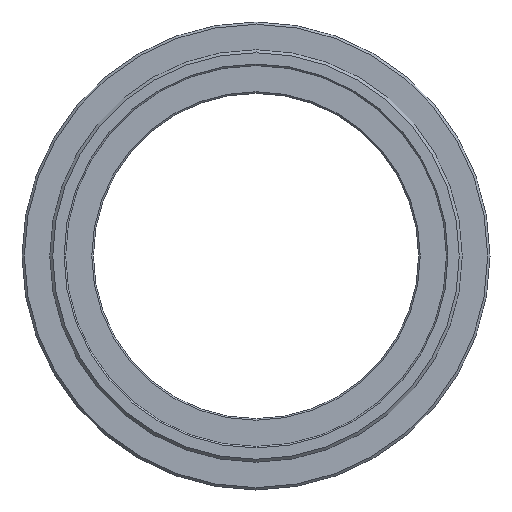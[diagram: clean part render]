
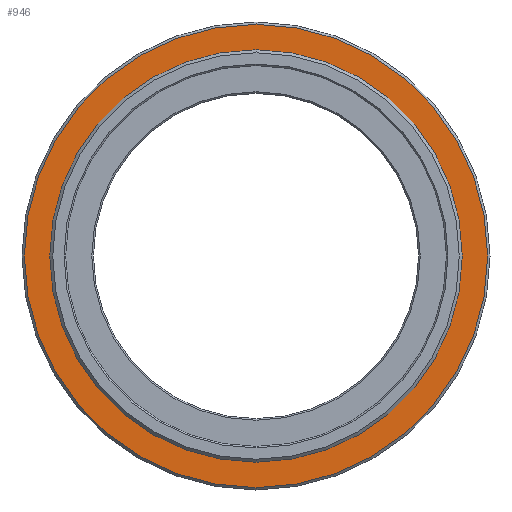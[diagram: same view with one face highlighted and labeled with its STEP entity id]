
A CAD part, left-side view. The second image highlights one B-rep face of the part: STEP entity #946.
In plain terms, the highlighted planar face has unit normal (-1, 0, 0).
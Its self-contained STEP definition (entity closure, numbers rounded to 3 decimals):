
#18 = AXIS2_PLACEMENT_3D ( 'NONE', #230, #1007, #340 ) ;
#23 = VERTEX_POINT ( 'NONE', #1200 ) ;
#64 = FACE_BOUND ( 'NONE', #240, .T. ) ;
#105 = EDGE_CURVE ( 'NONE', #483, #841, #659, .T. ) ;
#211 = CARTESIAN_POINT ( 'NONE',  ( 2.5, 0., 0. ) ) ;
#230 = CARTESIAN_POINT ( 'NONE',  ( 2.5, 0., 0. ) ) ;
#240 = EDGE_LOOP ( 'NONE', ( #1321, #616 ) ) ;
#249 = CIRCLE ( 'NONE', #274, 29.2 ) ;
#274 = AXIS2_PLACEMENT_3D ( 'NONE', #413, #1196, #521 ) ;
#320 = DIRECTION ( 'NONE',  ( 0., 0., 1. ) ) ;
#327 = EDGE_CURVE ( 'NONE', #480, #23, #457, .T. ) ;
#340 = DIRECTION ( 'NONE',  ( 0., 0., 1. ) ) ;
#355 = CARTESIAN_POINT ( 'NONE',  ( 2.5, 0., -29.2 ) ) ;
#359 = EDGE_CURVE ( 'NONE', #23, #480, #716, .T. ) ;
#383 = ORIENTED_EDGE ( 'NONE', *, *, #453, .T. ) ;
#413 = CARTESIAN_POINT ( 'NONE',  ( 2.5, 0., 0. ) ) ;
#416 = CARTESIAN_POINT ( 'NONE',  ( 2.5, 0., 29.2 ) ) ;
#423 = DIRECTION ( 'NONE',  ( 1., 0., 0. ) ) ;
#453 = EDGE_CURVE ( 'NONE', #841, #483, #249, .T. ) ;
#457 = CIRCLE ( 'NONE', #1229, 25.625 ) ;
#480 = VERTEX_POINT ( 'NONE', #981 ) ;
#481 = DIRECTION ( 'NONE',  ( -1., 0., 0. ) ) ;
#483 = VERTEX_POINT ( 'NONE', #416 ) ;
#521 = DIRECTION ( 'NONE',  ( 0., 0., 1. ) ) ;
#612 = AXIS2_PLACEMENT_3D ( 'NONE', #1091, #423, #1207 ) ;
#616 = ORIENTED_EDGE ( 'NONE', *, *, #327, .F. ) ;
#659 = CIRCLE ( 'NONE', #665, 29.2 ) ;
#665 = AXIS2_PLACEMENT_3D ( 'NONE', #1258, #481, #1152 ) ;
#716 = CIRCLE ( 'NONE', #18, 25.625 ) ;
#741 = EDGE_LOOP ( 'NONE', ( #383, #1017 ) ) ;
#841 = VERTEX_POINT ( 'NONE', #355 ) ;
#912 = PLANE ( 'NONE',  #612 ) ;
#946 = ADVANCED_FACE ( 'NONE', ( #64, #1212 ), #912, .F. ) ;
#981 = CARTESIAN_POINT ( 'NONE',  ( 2.5, 0., -25.625 ) ) ;
#984 = DIRECTION ( 'NONE',  ( -1., 0., 0. ) ) ;
#1007 = DIRECTION ( 'NONE',  ( -1., 0., 0. ) ) ;
#1017 = ORIENTED_EDGE ( 'NONE', *, *, #105, .T. ) ;
#1091 = CARTESIAN_POINT ( 'NONE',  ( 2.5, 0., 0. ) ) ;
#1152 = DIRECTION ( 'NONE',  ( 0., 0., 1. ) ) ;
#1196 = DIRECTION ( 'NONE',  ( -1., 0., 0. ) ) ;
#1200 = CARTESIAN_POINT ( 'NONE',  ( 2.5, 0., 25.625 ) ) ;
#1207 = DIRECTION ( 'NONE',  ( 0., 0., -1. ) ) ;
#1212 = FACE_OUTER_BOUND ( 'NONE', #741, .T. ) ;
#1229 = AXIS2_PLACEMENT_3D ( 'NONE', #211, #984, #320 ) ;
#1258 = CARTESIAN_POINT ( 'NONE',  ( 2.5, 0., 0. ) ) ;
#1321 = ORIENTED_EDGE ( 'NONE', *, *, #359, .F. ) ;
